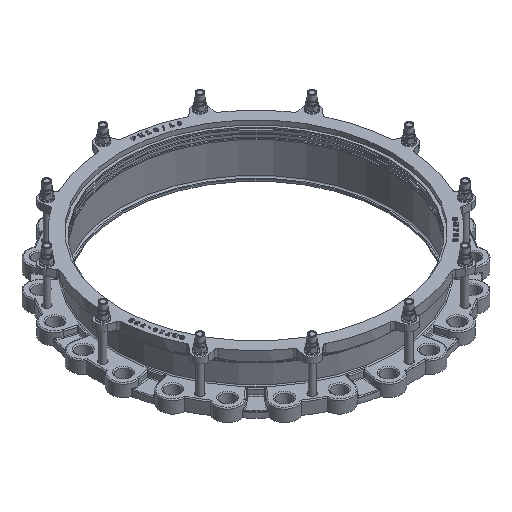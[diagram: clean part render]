
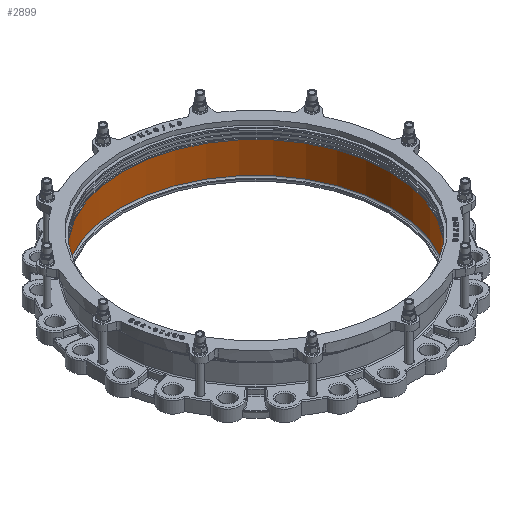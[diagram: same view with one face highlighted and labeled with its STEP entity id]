
A CAD part, isometric view. The second image highlights one B-rep face of the part: STEP entity #2899.
In plain terms, the highlighted cylindrical face has radius 369.5 mm (diameter 739 mm), a full revolution.
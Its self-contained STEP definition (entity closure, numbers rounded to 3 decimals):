
#2899=ADVANCED_FACE('',(#20438,#20440),#20442,.F.);
#20438=FACE_OUTER_BOUND('',#20439,.T.);
#20439=EDGE_LOOP('',(#28546));
#20440=FACE_OUTER_BOUND('',#20441,.T.);
#20441=EDGE_LOOP('',(#28547));
#20442=CYLINDRICAL_SURFACE('',#20443,369.5);
#20443=AXIS2_PLACEMENT_3D('',#20444,#20445,#20446);
#20444=CARTESIAN_POINT('',(0.,0.,5.));
#20445=DIRECTION('',(0.,0.,1.));
#20446=DIRECTION('',(-1.,0.,0.));
#28546=ORIENTED_EDGE('',*,*,#34496,.F.);
#28547=ORIENTED_EDGE('',*,*,#34495,.T.);
#34495=EDGE_CURVE('',#39117,#39117,#39118,.F.);
#34496=EDGE_CURVE('',#39119,#39119,#39120,.T.);
#39117=VERTEX_POINT('',#58616);
#39118=CIRCLE('',#58617,369.5);
#39119=VERTEX_POINT('',#58621);
#39120=CIRCLE('',#58622,369.5);
#58616=CARTESIAN_POINT('',(0.,369.5,9.));
#58617=AXIS2_PLACEMENT_3D('',#58618,#58619,#58620);
#58618=CARTESIAN_POINT('',(0.,0.,9.));
#58619=DIRECTION('',(0.,0.,1.));
#58620=DIRECTION('',(0.,1.,0.));
#58621=CARTESIAN_POINT('',(0.,369.5,96.));
#58622=AXIS2_PLACEMENT_3D('',#58623,#58624,#58625);
#58623=CARTESIAN_POINT('',(0.,0.,96.));
#58624=DIRECTION('',(0.,0.,-1.));
#58625=DIRECTION('',(0.,1.,0.));
